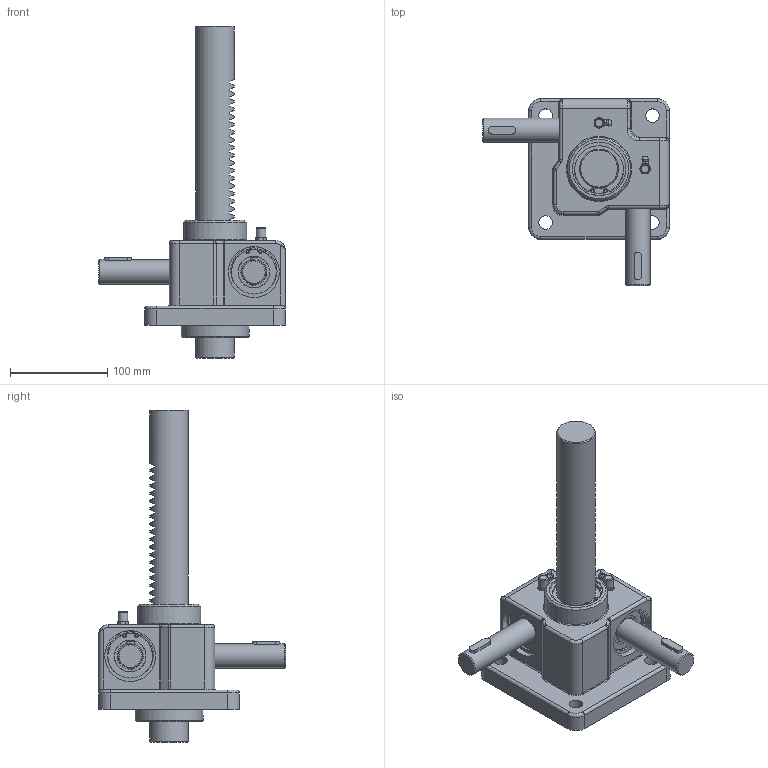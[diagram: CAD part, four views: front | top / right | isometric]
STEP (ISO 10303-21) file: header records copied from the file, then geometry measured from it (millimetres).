
FILE_DESCRIPTION(('STEP AP203'),'1');
FILE_NAME('SP1-3000U-200ST.stp','2022-06-15T05:55:15',(' '),(' '),'Spatial InterOp 3D',' ',' ');
FILE_SCHEMA(('CONFIG_CONTROL_DESIGN'));
Length unit declared in the file: millimetre
Products named in the file (16): SP1-3000U-200ST; Rack Gear(SP-3000); Body-Part; Nipple; 6205zz; SnapRing-55Pie; SnapRing-58Pie; Du Bush; Key; Shaft(SP1-3000); Gear Box(SP-3000); RJ05-4SCJ-610X600-100ST_CAP; LABEL-B.1; ___; 파트18; __
Assembly tree (22 placements, depth 6):
  SP1-3000U-200ST
    Rack Gear(SP-3000)
    Body-Part
      Nipple  x2
      6205zz  x2
      SnapRing-55Pie  x2
      SnapRing-58Pie  x2
      Du Bush  x2
      Key  x2
      Shaft(SP1-3000)  x2
      Gear Box(SP-3000)
      __
        ___
          RJ05-4SCJ-610X600-100ST_CAP
            LABEL-B.1
          파트18
Bounding box: 192.5 x 192.72 x 342 mm (x, y, z)
Volume: 1261571.6 mm3; surface area: 265253.2 mm2
Topology: 23 solids, 23 shells, 2356 faces, 6560 edges, 4247 vertices
Faces by surface type: plane 1944, cylinder 249, sphere 50, torus 48, cone 41, bspline 16, revolution 8
Full cylindrical faces by diameter (mm): 3.087 x4, 3.257 x4, 5.6 x2, 6 x2, 9.886 x2, 14 x4, 16 x1, 19 x2, 25 x4, 28 x2, 32.5 x4, 40 x3, 45 x1, 46.1 x4, 50 x4, 52 x4, 52.4 x2, 55 x4, 58 x2, 65 x1, 70 x1
Entity records: 72668 total; most frequent: CARTESIAN_POINT 14885, ORIENTED_EDGE 12130, DIRECTION 11071, EDGE_CURVE 6065, LINE 5315, VECTOR 5315, VERTEX_POINT 3998, AXIS2_PLACEMENT_3D 2875
